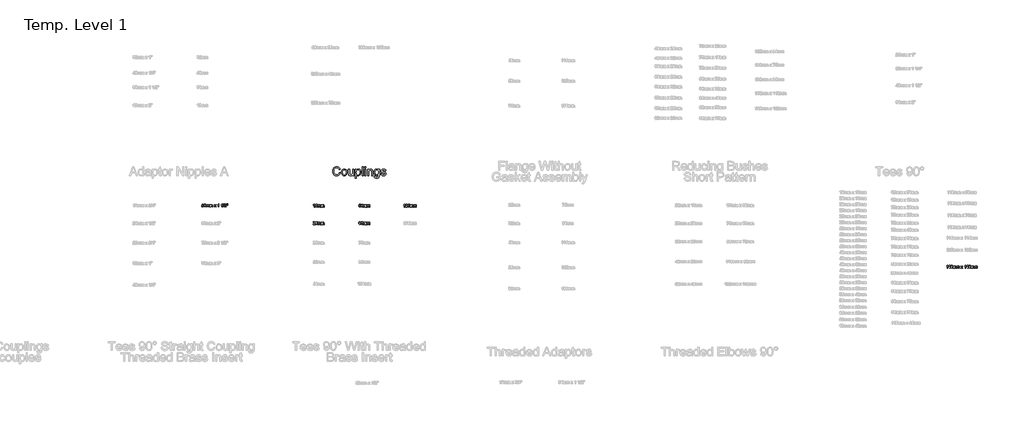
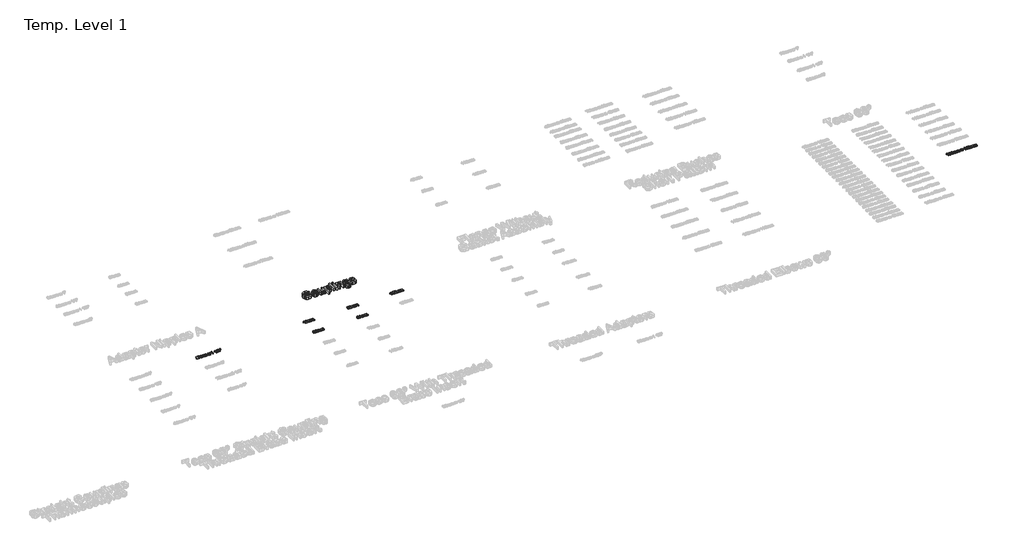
# One storey, part 30 of 62: 8 proxies.
"""IFC4 building model written with IfcOpenShell, lengths in millimetres."""

import ifcopenshell
import ifcopenshell.guid

model = None  # the IFC model being written
_history = None  # IfcOwnerHistory: only IFC2X3 demands one
_inside = {}  # id of a spatial element -> (the spatial element, [elements in it])
_under = {}  # id of a project, library or spatial element -> (it, [spatial elements below it])
_declared = {}  # id of a project -> (the project, [libraries it declares])
_typed = {}  # id of a type object -> (the type object, [elements of that type])
_made_of = {}  # id of a material, layer set ... -> (it, [elements and type objects made of it])


def new_model(schema):
    """Start an empty IFC model of exactly this schema.

    Asked for "IFC4X3", IfcOpenShell would pick the latest addendum, in which some entities
    have other attributes; the version numbers below select the first issue.
    IFC2X3 requires an IfcOwnerHistory on every rooted entity: one is made here for all.
    """
    global model, _history
    if schema == "IFC4X3":
        model = ifcopenshell.file(schema_version=(4, 3, 0, 0))
    else:
        model = ifcopenshell.file(schema=schema)
    _inside.clear()
    _under.clear()
    _declared.clear()
    _typed.clear()
    _made_of.clear()
    _history = None
    if model.schema == "IFC2X3":
        org = make("IfcOrganization", Name="unknown")
        user = make(
            "IfcPersonAndOrganization",
            ThePerson=make("IfcPerson", FamilyName="unknown"),
            TheOrganization=org,
        )
        app = make(
            "IfcApplication",
            ApplicationDeveloper=org,
            Version="unknown",
            ApplicationFullName="unknown",
            ApplicationIdentifier="unknown",
        )
        _history = make(
            "IfcOwnerHistory",
            OwningUser=user,
            OwningApplication=app,
            ChangeAction="ADDED",
            CreationDate=0,
        )
    return model


def make(cls, **values):
    """One entity of the class cls with the attributes given. An attribute that is None is left unset."""
    return model.create_entity(
        cls, **{name: value for name, value in values.items() if value is not None}
    )


def rooted(cls, **values):
    """An entity with a GlobalId (a new one), such as an element, a storey or a relation."""
    return make(cls, GlobalId=ifcopenshell.guid.new(), OwnerHistory=_history, **values)


def si_unit(unit_type, name, prefix=None):
    """IfcSIUnit, for example si_unit("LENGTHUNIT", "METRE", prefix="MILLI")."""
    return make("IfcSIUnit", UnitType=unit_type, Prefix=prefix, Name=name)


def assignment(units):
    """IfcUnitAssignment: the units of a project."""
    return None if units is None else make("IfcUnitAssignment", Units=units)


def point(xyz):
    """IfcCartesianPoint."""
    return None if xyz is None else make("IfcCartesianPoint", Coordinates=xyz)


def direction(xyz):
    """IfcDirection."""
    return None if xyz is None else make("IfcDirection", DirectionRatios=xyz)


def frame(location, z_axis=None, x_axis=None):
    """IfcAxis2Placement3D, a coordinate frame: its origin and axes. An axis left out is left unset."""
    return make(
        "IfcAxis2Placement3D",
        Location=point(location),
        Axis=direction(z_axis),
        RefDirection=direction(x_axis),
    )


def origin():
    """The frame at (0, 0, 0) with its axes left unset."""
    return frame((0.0, 0.0, 0.0))


def origin_with_axes():
    """The frame at (0, 0, 0) with the z axis (0, 0, 1) and the x axis (1, 0, 0) written out."""
    return frame((0.0, 0.0, 0.0), z_axis=(0.0, 0.0, 1.0), x_axis=(1.0, 0.0, 0.0))


def place(relative_to, where):
    """IfcLocalPlacement: puts the frame where relative to a parent placement (None: the world)."""
    return make(
        "IfcLocalPlacement", PlacementRelTo=relative_to, RelativePlacement=where
    )


def context(
    kind, dimensions, precision=None, world=None, true_north=None, identifier=None
):
    """IfcGeometricRepresentationContext, for example the 3D "Model" context."""
    return make(
        "IfcGeometricRepresentationContext",
        ContextIdentifier=identifier,
        ContextType=kind,
        CoordinateSpaceDimension=dimensions,
        Precision=precision,
        WorldCoordinateSystem=world,
        TrueNorth=true_north,
    )


def project(units=None, contexts=None):
    """IfcProject with its units and contexts."""
    return rooted(
        "IfcProject",
        Name="project",
        RepresentationContexts=contexts,
        UnitsInContext=assignment(units),
    )


def spatial(cls, under=None, at=None, **own):
    """A site, building, storey or space (cls), placed at a placement, below another one or the project."""
    s = rooted(cls, ObjectPlacement=at, **own)
    if under is not None:
        _under.setdefault(under.id(), (under, []))[1].append(s)
    return s


def polyline(points):
    """IfcPolyline through the points."""
    return make("IfcPolyline", Points=[point(p) for p in points])


def outline(outer, holes=None, kind="AREA"):
    """IfcArbitraryClosedProfileDef: a profile drawn as a closed curve; with holes, ...WithVoids."""
    if holes is None:
        return make("IfcArbitraryClosedProfileDef", ProfileType=kind, OuterCurve=outer)
    return make(
        "IfcArbitraryProfileDefWithVoids",
        ProfileType=kind,
        OuterCurve=outer,
        InnerCurves=holes,
    )


def extrude(swept, where, along, depth):
    """IfcExtrudedAreaSolid: the profile swept, set in the frame where, extruded along a direction by depth."""
    return make(
        "IfcExtrudedAreaSolid",
        SweptArea=swept,
        Position=where,
        ExtrudedDirection=direction(along),
        Depth=depth,
    )


def shape(context_of_items, identifier, shape_type, items):
    """IfcShapeRepresentation: the items that make up one representation, for example the "Body"."""
    return make(
        "IfcShapeRepresentation",
        ContextOfItems=context_of_items,
        RepresentationIdentifier=identifier,
        RepresentationType=shape_type,
        Items=items,
    )


def made_of(thing, what):
    """Note that an element or type object is made of a material, layer set ...; save() writes the relation."""
    if what is not None:
        _made_of.setdefault(what.id(), (what, []))[1].append(thing)
    return thing


def element(
    cls,
    number,
    at=None,
    inside=None,
    cuts=None,
    type_object=None,
    material=None,
    context=None,
    identifier="Body",
    shape_type=None,
    held_by="IfcProductDefinitionShape",
    body=None,
    shapes=None,
    **own,
):
    """One element of the class cls, such as IfcWall. Its Tag is "e" and its number.

    at: its placement. inside: the storey or other place that contains it. cuts: it is an
    opening in that element (IfcRelVoidsElement). A single representation is given by context,
    identifier, shape_type and body (its items); several are given by shapes. held_by: the class
    of the entity that holds the representations. save() writes the other relations.
    """
    e = rooted(cls, Tag="e%d" % number, ObjectPlacement=at, **own)
    if body is not None:
        shapes = [shape(context, identifier, shape_type, body)]
    if shapes is not None:
        e.Representation = make(held_by, Representations=shapes)
    if inside is not None:
        _inside.setdefault(inside.id(), (inside, []))[1].append(e)
    if cuts is not None:
        rooted(
            "IfcRelVoidsElement", RelatingBuildingElement=cuts, RelatedOpeningElement=e
        )
    if type_object is not None:
        _typed.setdefault(type_object.id(), (type_object, []))[1].append(e)
    return made_of(e, material)


def aggregate(whole, parts):
    """IfcRelAggregates: a whole, such as a stair, and the parts it consists of."""
    return rooted("IfcRelAggregates", RelatingObject=whole, RelatedObjects=parts)


def save(model, path):
    """Write the relations noted so far, then the file.

    IfcRelAggregates (storeys below a building ...), IfcRelContainedInSpatialStructure (elements
    in a storey), IfcRelDefinesByType, IfcRelAssociatesMaterial and IfcRelDeclares: one each for
    every whole, place, type object, material and project.
    """
    for whole, parts in _under.values():
        aggregate(whole, parts)
    for where, things in _inside.values():
        rooted(
            "IfcRelContainedInSpatialStructure",
            RelatedElements=things,
            RelatingStructure=where,
        )
    for kind, things in _typed.values():
        rooted("IfcRelDefinesByType", RelatedObjects=things, RelatingType=kind)
    for what, things in _made_of.values():
        rooted("IfcRelAssociatesMaterial", RelatedObjects=things, RelatingMaterial=what)
    for by, libraries in _declared.values():
        rooted("IfcRelDeclares", RelatingContext=by, RelatedDefinitions=libraries)
    model.write(path)


model = new_model("IFC4")

# Units and contexts
model_context = context("Model", 3, world=origin())
ifc_project = project(units=[si_unit("LENGTHUNIT", "METRE", prefix="MILLI")], contexts=[model_context])

# Site, building, storey
site = spatial("IfcSite", under=ifc_project)
building = spatial("IfcBuilding", under=site)
storey = spatial("IfcBuildingStorey", under=building, Name="Temp. Level 1", Elevation=0.0)

# Proxies
placement = place(None, origin())
element("IfcBuildingElementProxy", 1, Name="150mm Arial", ObjectType="150mm Arial", at=placement, inside=storey, context=model_context, shape_type="SweptSolid", body=[
    extrude(outline(polyline([(18084.579175, -7017.698517), (18103.0407135, -7022.4581324), (18094.5220837, -7043.9710531), (18081.1536942, -7059.6876997), (18063.5935981, -7069.3015819), (18042.4998481, -7072.5062093), (18021.0860861, -7070.0813295), (18004.0803769, -7062.8066901), (17991.0455212, -7050.9346949), (17981.5443192, -7034.7177478), (17975.743538, -7015.652243), (17973.8099442, -6995.2345747), (17975.9959418, -6973.699118), (17982.5539346, -6955.1023632), (17993.1413745, -6940.034755), (18007.4157135, -6929.0867382), (18024.3448, -6922.4205723), (18042.8964827, -6920.198517), (18063.1383697, -6923.074118), (18079.8736462, -6931.7009209), (18092.5794755, -6945.5470747), (18100.7330212, -6964.0807286), (18082.2714827, -6968.479767), (18075.8712423, -6955.0167262), (18067.1272519, -6945.7814497), (18055.9313385, -6940.440404), (18042.1753288, -6938.6600555), (18026.3189587, -6940.6342141), (18013.2931173, -6946.5566901), (18003.4088024, -6955.8054882), (17996.9770115, -6967.7586132), (17992.2714827, -6995.198517), (17997.8423962, -7027.0014016), (18004.9637904, -7038.877904), (18015.1861462, -7047.3199112), (18027.4412543, -7052.363481), (18040.6609058, -7054.0446709), (18056.071062, -7051.7550074), (18068.9121077, -7044.886017), (18078.6071197, -7033.5098151), (18084.579175, -7017.698517)])), origin_with_axes(), (0.0, 0.0, 1.0), 50.0),
    extrude(outline(polyline([(18121.5022519, -7015.9677478), (18125.4956413, -6989.8169064), (18137.4758096, -6971.4364978), (18152.2774923, -6962.4310891), (18169.9998481, -6959.4292862), (18189.3943793, -6963.0846348), (18204.8856654, -6974.0506805), (18215.040413, -6991.4620387), (18218.4253288, -7014.4533247), (18216.9289346, -7033.1041661), (18212.4397519, -7047.3018824), (18205.0884899, -7057.9343944), (18195.0058577, -7065.8896228), (18183.0301966, -7070.8520627), (18169.9998481, -7072.5062093), (18150.3709418, -7068.8643824), (18134.8976846, -7057.9389016), (18124.8511101, -7040.1624593), (18121.5022519, -7015.9677478)]), holes=[polyline([(18139.9637904, -7015.9316901), (18142.1002087, -7032.6399233), (18148.5094635, -7044.5434689), (18158.1548962, -7051.6693704), (18169.9998481, -7054.0446709), (18181.7907135, -7051.6558487), (18191.4181173, -7044.4893824), (18197.8273721, -7032.4280843), (18199.9637904, -7015.354767), (18197.8138505, -6999.1333127), (18191.3640308, -6987.3920266), (18181.7231053, -6980.2661252), (18169.9998481, -6977.8908247), (18158.1548962, -6980.2571108), (18148.5094635, -6987.3559689), (18142.1002087, -6999.2324713), (18139.9637904, -7015.9316901)])]), origin_with_axes(), (0.0, 0.0, 1.0), 50.0),
    extrude(outline(polyline([(18308.4253288, -7070.198517), (18308.4253288, -7051.5566901), (18293.9661942, -7067.2688295), (18275.1080212, -7072.5062093), (18257.7462423, -7068.8283247), (18245.7750885, -7059.5975555), (18240.2762904, -7046.0038055), (18239.1945596, -7028.8403439), (18239.1945596, -6961.7369786), (18257.6560981, -6961.7369786), (18257.6560981, -7020.1504401), (18258.7738865, -7038.9725555), (18266.0755692, -7050.0242382), (18279.8315788, -7054.0446709), (18295.2462423, -7049.9340939), (18305.4325404, -7038.7381805), (18308.4253288, -7018.167267), (18308.4253288, -6961.7369786), (18326.8868673, -6961.7369786), (18326.8868673, -7070.198517), (18308.4253288, -7070.198517)])), origin_with_axes(), (0.0, 0.0, 1.0), 50.0),
    extrude(outline(polyline([(18352.2714827, -7111.7369786), (18352.2714827, -6961.7369786), (18370.7330212, -6961.7369786), (18370.7330212, -6979.8379401), (18383.4974442, -6964.5314497), (18400.7330212, -6959.4292862), (18413.2179971, -6961.214142), (18424.1344635, -6966.5687093), (18433.0226846, -6975.1684689), (18439.422925, -6986.6889016), (18444.579175, -7015.1384209), (18443.1233457, -7030.9271829), (18438.7558577, -7045.0482766), (18431.6164346, -7056.7850555), (18421.8448, -7065.4208728), (18410.4640909, -7070.7348752), (18398.4974442, -7072.5062093), (18382.4337423, -7067.7646228), (18370.7330212, -7055.7754401), (18370.7330212, -7111.7369786), (18352.2714827, -7111.7369786)]), holes=[polyline([(18370.7330212, -7016.8331324), (18372.7297159, -7033.3836132), (18378.7198, -7044.9581324), (18387.5584418, -7051.7730362), (18398.1008096, -7054.0446709), (18408.8144514, -7051.6919064), (18417.8784538, -7044.6336132), (18424.0578409, -7032.6354161), (18426.1176365, -7015.4629401), (18424.1074202, -6999.0026036), (18418.0767712, -6987.2658247), (18409.251651, -6980.2345747), (18398.8580212, -6977.8908247), (18388.4238264, -6980.3833127), (18379.2606654, -6987.8607766), (18372.8649322, -7000.0888415), (18370.7330212, -7016.8331324)])]), origin_with_axes(), (0.0, 0.0, 1.0), 50.0),
    extrude(outline(polyline([(18465.3484058, -7070.198517), (18465.3484058, -6922.5062093), (18483.8099442, -6922.5062093), (18483.8099442, -7070.198517), (18465.3484058, -7070.198517)])), origin_with_axes(), (0.0, 0.0, 1.0), 50.0),
    extrude(outline(polyline([(18511.5022519, -6940.9677478), (18511.5022519, -6922.5062093), (18529.9637904, -6922.5062093), (18529.9637904, -6940.9677478), (18511.5022519, -6940.9677478)])), origin_with_axes(), (0.0, 0.0, 1.0), 50.0),
    extrude(outline(polyline([(18511.5022519, -7070.198517), (18511.5022519, -6961.7369786), (18529.9637904, -6961.7369786), (18529.9637904, -7070.198517), (18511.5022519, -7070.198517)])), origin_with_axes(), (0.0, 0.0, 1.0), 50.0),
    extrude(outline(polyline([(18557.6560981, -7070.198517), (18557.6560981, -6961.7369786), (18576.1176365, -6961.7369786), (18576.1176365, -6976.8812093), (18590.2342231, -6963.792267), (18609.5070596, -6959.4292862), (18626.9409538, -6962.9449112), (18638.8399923, -6972.1756805), (18644.3748481, -6985.7514016), (18645.3484058, -7003.5999593), (18645.3484058, -7070.198517), (18626.8868673, -7070.198517), (18626.8868673, -7006.0879401), (18624.7594635, -6989.7538055), (18617.2414346, -6981.1179882), (18604.5671558, -6977.8908247), (18593.7543553, -6979.7027237), (18584.5371077, -6985.1384209), (18578.2225043, -6995.6402237), (18576.1176365, -7012.6504401), (18576.1176365, -7070.198517), (18557.6560981, -7070.198517)])), origin_with_axes(), (0.0, 0.0, 1.0), 50.0),
    extrude(outline(polyline([(18666.1176365, -7079.4292862), (18684.579175, -7081.7369786), (18690.5647519, -7091.4725555), (18708.485425, -7095.5831324), (18727.3796558, -7090.9316901), (18736.3940788, -7077.8788055), (18737.6560981, -7056.3523632), (18724.6573, -7066.7369786), (18708.8099442, -7070.198517), (18689.7759899, -7066.1690699), (18675.5827808, -7054.0807286), (18666.7531534, -7036.3583728), (18663.8099442, -7015.4268824), (18669.0923962, -6986.8151036), (18675.5557375, -6975.2000194), (18684.3808577, -6966.5687093), (18695.2657736, -6961.214142), (18707.9085019, -6959.4292862), (18724.3778529, -6963.4677478), (18737.6560981, -6975.5831324), (18737.6560981, -6961.7369786), (18756.1176365, -6961.7369786), (18756.1176365, -7055.3788055), (18754.8556173, -7076.9998992), (18751.0695596, -7091.2381805), (18744.5476245, -7100.6807887), (18735.0779731, -7107.9148632), (18722.867937, -7112.5122189), (18708.1248481, -7114.0446709), (18690.9478649, -7111.8857165), (18677.4217231, -7105.4088536), (18668.7453409, -7094.5960531), (18666.1176365, -7079.4292862)]), holes=[polyline([(18682.2714827, -7014.1648632), (18684.2411341, -7031.0984569), (18690.1500885, -7042.7405843), (18699.0338024, -7049.48788), (18709.9277327, -7051.7369786), (18720.7405332, -7049.5014016), (18729.6693192, -7042.7946709), (18735.6594034, -7031.3012814), (18737.6560981, -7014.7057286), (18735.6008096, -6998.7006204), (18729.4349442, -6987.1756805), (18720.375449, -6980.2120387), (18709.6392712, -6977.8908247), (18699.0969034, -6980.175981), (18690.2582615, -6987.0314497), (18684.2681774, -6998.3851156), (18682.2714827, -7014.1648632)])]), origin_with_axes(), (0.0, 0.0, 1.0), 50.0),
    extrude(outline(polyline([(18776.8868673, -7037.8908247), (18795.3484058, -7035.5831324), (18798.2600644, -7043.479767), (18803.8940788, -7049.2850555), (18823.4734058, -7054.0446709), (18842.2955212, -7049.6816901), (18848.4253288, -7039.4413055), (18842.2594635, -7031.1480362), (18823.2570596, -7025.8836132), (18795.4565788, -7016.8511612), (18783.3231654, -7006.3042862), (18779.1945596, -6991.4124593), (18782.5118673, -6977.6564497), (18791.5623481, -6967.1456324), (18803.2991269, -6961.682892), (18819.1825404, -6959.4292862), (18841.6464827, -6963.0530843), (18855.9253288, -6972.8607766), (18862.2714827, -6989.4292862), (18843.8099442, -6991.7369786), (18836.8688385, -6981.5506805), (18820.6248481, -6977.8908247), (18802.9565788, -6981.3884209), (18797.6560981, -6989.5374593), (18799.8556173, -6994.9100555), (18806.7426365, -6998.9845747), (18822.6440788, -7002.9148632), (18849.7414346, -7011.604767), (18862.3255692, -7021.448517), (18866.8868673, -7037.4941901), (18861.5323, -7055.1624593), (18846.0815788, -7067.9809689), (18823.2210019, -7072.5062093), (18804.6062183, -7070.3247189), (18791.0214827, -7063.7802478), (18781.9529731, -7052.9449112), (18776.8868673, -7037.8908247)])), origin_with_axes(), (0.0, 0.0, 1.0), 50.0),
])
element("IfcBuildingElementProxy", 2, Name="50mm Arial", ObjectType="50mm Arial", at=placement, inside=storey, context=model_context, shape_type="SweptSolid", body=[
    extrude(outline(polyline([(15795.8008487, -7577.1215939), (15801.9546948, -7576.3523632), (15805.0556564, -7582.6925074), (15811.4859448, -7584.8139016), (15819.202291, -7581.8631805), (15821.9546948, -7574.0326516), (15819.3765698, -7566.7249593), (15811.5820987, -7564.0446709), (15806.1794545, -7565.1143824), (15802.7239256, -7567.8908247), (15796.5700795, -7567.1215939), (15801.9546948, -7541.7369786), (15825.8008487, -7541.7369786), (15825.8008487, -7547.8908247), (15806.9306564, -7547.8908247), (15804.2984448, -7561.448517), (15813.3008487, -7557.8908247), (15823.8236852, -7562.3018824), (15828.108541, -7573.6480362), (15824.2503679, -7585.0663055), (15818.7095025, -7589.4923872), (15811.4619064, -7590.9677478), (15800.6025314, -7587.1756805), (15795.8008487, -7577.1215939)])), origin_with_axes(), (0.0, 0.0, 1.0), 15.0),
    extrude(outline(polyline([(15833.4931564, -7565.979767), (15835.3020506, -7551.8151036), (15840.6746468, -7543.6480362), (15849.6470025, -7540.9677478), (15856.8345025, -7542.5542862), (15861.7984448, -7547.1276036), (15864.6830602, -7554.4112574), (15865.8008487, -7565.979767), (15864.0099833, -7580.0843343), (15858.655416, -7588.2694305), (15849.6470025, -7590.9677478), (15838.3970025, -7586.2802478), (15834.7191179, -7577.9539257), (15833.4931564, -7565.979767)]), holes=[polyline([(15839.6470025, -7565.9677478), (15842.5316179, -7581.2501997), (15849.6470025, -7584.8139016), (15856.7623871, -7581.2381805), (15859.6470025, -7565.9677478), (15856.858541, -7550.8595747), (15849.5748871, -7547.1215939), (15842.6277718, -7550.4148632), (15839.6470025, -7565.9677478)])]), origin_with_axes(), (0.0, 0.0, 1.0), 15.0),
    extrude(outline(polyline([(15872.7239256, -7590.198517), (15872.7239256, -7554.0446709), (15878.8777718, -7554.0446709), (15878.8777718, -7559.9941901), (15883.108541, -7555.120392), (15889.1301756, -7553.2754401), (15895.296041, -7555.1564497), (15898.6854641, -7560.4268824), (15903.4871468, -7555.0633007), (15909.5508487, -7553.2754401), (15917.5977237, -7556.2501997), (15920.4162333, -7565.4148632), (15920.4162333, -7590.198517), (15914.2623871, -7590.198517), (15914.2623871, -7568.0590939), (15913.6914737, -7562.9208728), (15911.624166, -7560.3908247), (15908.108541, -7559.4292862), (15902.0568583, -7561.8932286), (15899.6470025, -7569.7898632), (15899.6470025, -7590.198517), (15893.4931564, -7590.198517), (15893.4931564, -7567.3739978), (15892.0688775, -7561.4124593), (15887.3994064, -7559.4292862), (15882.8441179, -7560.7514016), (15879.8152718, -7564.6215939), (15878.8777718, -7571.9653439), (15878.8777718, -7590.198517), (15872.7239256, -7590.198517)])), origin_with_axes(), (0.0, 0.0, 1.0), 15.0),
    extrude(outline(polyline([(15929.6470025, -7590.198517), (15929.6470025, -7554.0446709), (15935.8008487, -7554.0446709), (15935.8008487, -7559.9941901), (15940.0316179, -7555.120392), (15946.0532525, -7553.2754401), (15952.2191179, -7555.1564497), (15955.608541, -7560.4268824), (15960.4102237, -7555.0633007), (15966.4739256, -7553.2754401), (15974.5208006, -7556.2501997), (15977.3393102, -7565.4148632), (15977.3393102, -7590.198517), (15971.1854641, -7590.198517), (15971.1854641, -7568.0590939), (15970.6145506, -7562.9208728), (15968.5472429, -7560.3908247), (15965.0316179, -7559.4292862), (15958.9799352, -7561.8932286), (15956.5700795, -7569.7898632), (15956.5700795, -7590.198517), (15950.4162333, -7590.198517), (15950.4162333, -7567.3739978), (15948.9919545, -7561.4124593), (15944.3224833, -7559.4292862), (15939.7671948, -7560.7514016), (15936.7383487, -7564.6215939), (15935.8008487, -7571.9653439), (15935.8008487, -7590.198517), (15929.6470025, -7590.198517)])), origin_with_axes(), (0.0, 0.0, 1.0), 15.0),
    extrude(outline(polyline([(16001.9546948, -7590.198517), (16015.1037333, -7572.0254401), (16002.7239256, -7554.0446709), (16010.1277718, -7554.0446709), (16016.1013295, -7562.698517), (16018.889791, -7566.7850555), (16021.3056564, -7563.4437093), (16028.108541, -7554.0446709), (16035.5123871, -7554.0446709), (16022.5075795, -7572.0254401), (16035.0316179, -7590.198517), (16027.6277718, -7590.198517), (16020.0917141, -7579.2730362), (16018.7095025, -7577.2778439), (16009.358541, -7590.198517), (16001.9546948, -7590.198517)])), origin_with_axes(), (0.0, 0.0, 1.0), 15.0),
    extrude(outline(polyline([(16081.1854641, -7590.198517), (16075.0316179, -7590.198517), (16075.0316179, -7551.8331324), (16069.202291, -7555.9857766), (16062.7239256, -7559.0927478), (16062.7239256, -7553.2754401), (16071.7443583, -7547.5182286), (16077.2191179, -7540.9677478), (16081.1854641, -7540.9677478), (16081.1854641, -7590.198517)])), origin_with_axes(), (0.0, 0.0, 1.0), 15.0),
    extrude(outline(polyline([(16138.108541, -7590.198517), (16131.9546948, -7590.198517), (16131.9546948, -7551.8331324), (16126.1253679, -7555.9857766), (16119.6470025, -7559.0927478), (16119.6470025, -7553.2754401), (16128.6674352, -7547.5182286), (16134.1421948, -7540.9677478), (16138.108541, -7540.9677478), (16138.108541, -7590.198517)])), origin_with_axes(), (0.0, 0.0, 1.0), 15.0),
    extrude(outline(polyline([(16149.6470025, -7590.198517), (16163.4931564, -7540.9677478), (16169.046041, -7540.9677478), (16155.1998871, -7590.198517), (16149.6470025, -7590.198517)])), origin_with_axes(), (0.0, 0.0, 1.0), 15.0),
    extrude(outline(polyline([(16203.4931564, -7584.0446709), (16203.4931564, -7590.198517), (16171.1854641, -7590.198517), (16171.8465218, -7585.9557286), (16175.5845025, -7579.4232766), (16183.2888295, -7572.2898632), (16193.9138295, -7562.0374593), (16196.5700795, -7555.0663055), (16194.0640698, -7549.4232766), (16187.5195987, -7547.1215939), (16180.6986852, -7549.3691901), (16178.108541, -7555.5831324), (16171.9546948, -7554.8139016), (16176.6722429, -7544.5134209), (16187.6518102, -7540.9677478), (16198.6674352, -7544.9100555), (16202.7239256, -7554.6937093), (16201.6301756, -7560.5290459), (16197.9943583, -7566.5626997), (16189.1782525, -7574.9941901), (16182.0989256, -7580.9136612), (16179.3224833, -7584.0446709), (16203.4931564, -7584.0446709)])), origin_with_axes(), (0.0, 0.0, 1.0), 15.0),
    extrude(outline(polyline([(16223.421041, -7558.6600555), (16221.9546948, -7549.1528439), (16221.9546948, -7540.9677478), (16228.108541, -7540.9677478), (16228.108541, -7549.1528439), (16226.6662333, -7558.6600555), (16223.421041, -7558.6600555)])), origin_with_axes(), (0.0, 0.0, 1.0), 15.0),
    extrude(outline(polyline([(16211.1494064, -7558.6600555), (16209.6470025, -7549.1528439), (16209.6470025, -7540.9677478), (16215.8008487, -7540.9677478), (16215.8008487, -7549.1528439), (16214.4546948, -7558.6600555), (16211.1494064, -7558.6600555)])), origin_with_axes(), (0.0, 0.0, 1.0), 15.0),
])
element("IfcBuildingElementProxy", 3, Name="50mm Arial", ObjectType="50mm Arial", at=placement, inside=storey, context=model_context, shape_type="SweptSolid", body=[
    extrude(outline(polyline([(17674.3130417, -7591.5627719), (17668.1591956, -7591.5627719), (17668.1591956, -7553.1973873), (17662.3298686, -7557.3500315), (17655.8515033, -7560.4570027), (17655.8515033, -7554.639695), (17664.8719359, -7548.8824835), (17670.3466956, -7542.3320027), (17674.3130417, -7542.3320027), (17674.3130417, -7591.5627719)])), origin_with_axes(), (0.0, 0.0, 1.0), 15.0),
    extrude(outline(polyline([(17720.4668879, -7555.4089258), (17714.3130417, -7556.1781565), (17711.9813109, -7551.045945), (17705.8154456, -7548.4858488), (17700.2625609, -7549.9762335), (17696.0618398, -7555.5711854), (17694.3130417, -7566.5387335), (17699.7397244, -7561.6288777), (17706.464484, -7560.0243104), (17716.9212148, -7564.4113296), (17721.2361186, -7575.7454642), (17719.2048686, -7584.2370508), (17713.6159263, -7590.2466661), (17705.5510225, -7592.3320027), (17693.0089552, -7586.8031565), (17689.3716355, -7579.483445), (17688.1591956, -7568.5820027), (17689.5053494, -7556.3253921), (17693.5438109, -7547.9449835), (17699.0576331, -7543.7352479), (17706.2000609, -7542.3320027), (17715.9236186, -7545.8055604), (17720.4668879, -7555.4089258)]), holes=[polyline([(17694.3130417, -7575.6493104), (17695.7373206, -7580.9798392), (17699.5233783, -7584.8500315), (17705.0702533, -7586.1781565), (17712.323859, -7583.4257527), (17715.0822725, -7575.9497911), (17712.3599167, -7568.7923392), (17704.8178494, -7566.1781565), (17697.3719359, -7568.7923392), (17694.3130417, -7575.6493104)])]), origin_with_axes(), (0.0, 0.0, 1.0), 15.0),
    extrude(outline(polyline([(17728.1591956, -7591.5627719), (17728.1591956, -7555.4089258), (17734.3130417, -7555.4089258), (17734.3130417, -7561.358445), (17738.5438109, -7556.4846469), (17744.5654456, -7554.639695), (17750.7313109, -7556.5207046), (17754.120734, -7561.7911373), (17758.9224167, -7556.4275556), (17764.9861186, -7554.639695), (17773.0329936, -7557.6144546), (17775.8515033, -7566.7791181), (17775.8515033, -7591.5627719), (17769.6976571, -7591.5627719), (17769.6976571, -7569.4233488), (17769.1267436, -7564.2851277), (17767.0594359, -7561.7550796), (17763.5438109, -7560.7935411), (17757.4921283, -7563.2574835), (17755.0822725, -7571.1541181), (17755.0822725, -7591.5627719), (17748.9284263, -7591.5627719), (17748.9284263, -7568.7382527), (17747.5041475, -7562.7767142), (17742.8346763, -7560.7935411), (17738.2793879, -7562.1156565), (17735.2505417, -7565.9858488), (17734.3130417, -7573.3295988), (17734.3130417, -7591.5627719), (17728.1591956, -7591.5627719)])), origin_with_axes(), (0.0, 0.0, 1.0), 15.0),
    extrude(outline(polyline([(17785.0822725, -7591.5627719), (17785.0822725, -7555.4089258), (17791.2361186, -7555.4089258), (17791.2361186, -7561.358445), (17795.4668879, -7556.4846469), (17801.4885225, -7554.639695), (17807.6543879, -7556.5207046), (17811.0438109, -7561.7911373), (17815.8454936, -7556.4275556), (17821.9091956, -7554.639695), (17829.9560706, -7557.6144546), (17832.7745802, -7566.7791181), (17832.7745802, -7591.5627719), (17826.620734, -7591.5627719), (17826.620734, -7569.4233488), (17826.0498206, -7564.2851277), (17823.9825129, -7561.7550796), (17820.4668879, -7560.7935411), (17814.4152052, -7563.2574835), (17812.0053494, -7571.1541181), (17812.0053494, -7591.5627719), (17805.8515033, -7591.5627719), (17805.8515033, -7568.7382527), (17804.4272244, -7562.7767142), (17799.7577533, -7560.7935411), (17795.2024648, -7562.1156565), (17792.1736186, -7565.9858488), (17791.2361186, -7573.3295988), (17791.2361186, -7591.5627719), (17785.0822725, -7591.5627719)])), origin_with_axes(), (0.0, 0.0, 1.0), 15.0),
])
element("IfcBuildingElementProxy", 4, Name="50mm Arial", ObjectType="50mm Arial", at=placement, inside=storey, context=model_context, shape_type="SweptSolid", body=[
    extrude(outline(polyline([(17682.7745802, -7876.5446709), (17682.7745802, -7882.698517), (17650.4668879, -7882.698517), (17651.1279456, -7878.4557286), (17654.8659263, -7871.9232766), (17662.5702533, -7864.7898632), (17673.1952533, -7854.5374593), (17675.8515033, -7847.5663055), (17673.3454936, -7841.9232766), (17666.8010225, -7839.6215939), (17659.980109, -7841.8691901), (17657.3899648, -7848.0831324), (17651.2361186, -7847.3139016), (17655.9536667, -7837.0134209), (17666.933234, -7833.4677478), (17677.948859, -7837.4100555), (17682.0053494, -7847.1937093), (17680.9115994, -7853.0290459), (17677.2757821, -7859.0626997), (17668.4596763, -7867.4941901), (17661.3803494, -7873.4136612), (17658.6039071, -7876.5446709), (17682.7745802, -7876.5446709)])), origin_with_axes(), (0.0, 0.0, 1.0), 15.0),
    extrude(outline(polyline([(17688.9284263, -7858.479767), (17690.7373206, -7844.3151036), (17696.1099167, -7836.1480362), (17705.0822725, -7833.4677478), (17712.2697725, -7835.0542862), (17717.2337148, -7839.6276036), (17720.1183302, -7846.9112574), (17721.2361186, -7858.479767), (17719.4452533, -7872.5843343), (17714.0906859, -7880.7694305), (17705.0822725, -7883.4677478), (17693.8322725, -7878.7802478), (17690.1543879, -7870.4539257), (17688.9284263, -7858.479767)]), holes=[polyline([(17695.0822725, -7858.4677478), (17697.9668879, -7873.7501997), (17705.0822725, -7877.3139016), (17712.1976571, -7873.7381805), (17715.0822725, -7858.4677478), (17712.2938109, -7843.3595747), (17705.0101571, -7839.6215939), (17698.0630417, -7842.9148632), (17695.0822725, -7858.4677478)])]), origin_with_axes(), (0.0, 0.0, 1.0), 15.0),
    extrude(outline(polyline([(17728.1591956, -7882.698517), (17728.1591956, -7846.5446709), (17734.3130417, -7846.5446709), (17734.3130417, -7852.4941901), (17738.5438109, -7847.620392), (17744.5654456, -7845.7754401), (17750.7313109, -7847.6564497), (17754.120734, -7852.9268824), (17758.9224167, -7847.5633007), (17764.9861186, -7845.7754401), (17773.0329936, -7848.7501997), (17775.8515033, -7857.9148632), (17775.8515033, -7882.698517), (17769.6976571, -7882.698517), (17769.6976571, -7860.5590939), (17769.1267436, -7855.4208728), (17767.0594359, -7852.8908247), (17763.5438109, -7851.9292862), (17757.4921283, -7854.3932286), (17755.0822725, -7862.2898632), (17755.0822725, -7882.698517), (17748.9284263, -7882.698517), (17748.9284263, -7859.8739978), (17747.5041475, -7853.9124593), (17742.8346763, -7851.9292862), (17738.2793879, -7853.2514016), (17735.2505417, -7857.1215939), (17734.3130417, -7864.4653439), (17734.3130417, -7882.698517), (17728.1591956, -7882.698517)])), origin_with_axes(), (0.0, 0.0, 1.0), 15.0),
    extrude(outline(polyline([(17785.0822725, -7882.698517), (17785.0822725, -7846.5446709), (17791.2361186, -7846.5446709), (17791.2361186, -7852.4941901), (17795.4668879, -7847.620392), (17801.4885225, -7845.7754401), (17807.6543879, -7847.6564497), (17811.0438109, -7852.9268824), (17815.8454936, -7847.5633007), (17821.9091956, -7845.7754401), (17829.9560706, -7848.7501997), (17832.7745802, -7857.9148632), (17832.7745802, -7882.698517), (17826.620734, -7882.698517), (17826.620734, -7860.5590939), (17826.0498206, -7855.4208728), (17823.9825129, -7852.8908247), (17820.4668879, -7851.9292862), (17814.4152052, -7854.3932286), (17812.0053494, -7862.2898632), (17812.0053494, -7882.698517), (17805.8515033, -7882.698517), (17805.8515033, -7859.8739978), (17804.4272244, -7853.9124593), (17799.7577533, -7851.9292862), (17795.2024648, -7853.2514016), (17792.1736186, -7857.1215939), (17791.2361186, -7864.4653439), (17791.2361186, -7882.698517), (17785.0822725, -7882.698517)])), origin_with_axes(), (0.0, 0.0, 1.0), 15.0),
])
element("IfcBuildingElementProxy", 5, Name="50mm Arial", ObjectType="50mm Arial", at=placement, inside=storey, context=model_context, shape_type="SweptSolid", body=[
    extrude(outline(polyline([(18411.2361186, -7578.4858488), (18417.3899648, -7577.7166181), (18420.4909263, -7584.0567623), (18426.9212148, -7586.1781565), (18434.6375609, -7583.2274354), (18437.3899648, -7575.3969065), (18434.8118398, -7568.0892142), (18427.0173686, -7565.4089258), (18421.6147244, -7566.4786373), (18418.1591956, -7569.2550796), (18412.0053494, -7568.4858488), (18417.3899648, -7543.1012335), (18441.2361186, -7543.1012335), (18441.2361186, -7549.2550796), (18422.3659263, -7549.2550796), (18419.7337148, -7562.8127719), (18428.7361186, -7559.2550796), (18439.2589552, -7563.6661373), (18443.5438109, -7575.0122911), (18439.6856379, -7586.4305604), (18434.1447725, -7590.8566421), (18426.8971763, -7592.3320027), (18416.0378013, -7588.5399354), (18411.2361186, -7578.4858488)])), origin_with_axes(), (0.0, 0.0, 1.0), 15.0),
    extrude(outline(polyline([(18448.9284263, -7567.3440219), (18450.7373206, -7553.1793585), (18456.1099167, -7545.0122911), (18465.0822725, -7542.3320027), (18472.2697725, -7543.9185411), (18477.2337148, -7548.4918585), (18480.1183302, -7555.7755123), (18481.2361186, -7567.3440219), (18479.4452533, -7581.4485892), (18474.0906859, -7589.6336854), (18465.0822725, -7592.3320027), (18453.8322725, -7587.6445027), (18450.1543879, -7579.3181806), (18448.9284263, -7567.3440219)]), holes=[polyline([(18455.0822725, -7567.3320027), (18457.9668879, -7582.6144546), (18465.0822725, -7586.1781565), (18472.1976571, -7582.6024354), (18475.0822725, -7567.3320027), (18472.2938109, -7552.2238296), (18465.0101571, -7548.4858488), (18458.0630417, -7551.7791181), (18455.0822725, -7567.3320027)])]), origin_with_axes(), (0.0, 0.0, 1.0), 15.0),
    extrude(outline(polyline([(18488.1591956, -7591.5627719), (18488.1591956, -7555.4089258), (18494.3130417, -7555.4089258), (18494.3130417, -7561.358445), (18498.5438109, -7556.4846469), (18504.5654456, -7554.639695), (18510.7313109, -7556.5207046), (18514.120734, -7561.7911373), (18518.9224167, -7556.4275556), (18524.9861186, -7554.639695), (18533.0329936, -7557.6144546), (18535.8515033, -7566.7791181), (18535.8515033, -7591.5627719), (18529.6976571, -7591.5627719), (18529.6976571, -7569.4233488), (18529.1267436, -7564.2851277), (18527.0594359, -7561.7550796), (18523.5438109, -7560.7935411), (18517.4921283, -7563.2574835), (18515.0822725, -7571.1541181), (18515.0822725, -7591.5627719), (18508.9284263, -7591.5627719), (18508.9284263, -7568.7382527), (18507.5041475, -7562.7767142), (18502.8346763, -7560.7935411), (18498.2793879, -7562.1156565), (18495.2505417, -7565.9858488), (18494.3130417, -7573.3295988), (18494.3130417, -7591.5627719), (18488.1591956, -7591.5627719)])), origin_with_axes(), (0.0, 0.0, 1.0), 15.0),
    extrude(outline(polyline([(18545.0822725, -7591.5627719), (18545.0822725, -7555.4089258), (18551.2361186, -7555.4089258), (18551.2361186, -7561.358445), (18555.4668879, -7556.4846469), (18561.4885225, -7554.639695), (18567.6543879, -7556.5207046), (18571.0438109, -7561.7911373), (18575.8454936, -7556.4275556), (18581.9091956, -7554.639695), (18589.9560706, -7557.6144546), (18592.7745802, -7566.7791181), (18592.7745802, -7591.5627719), (18586.620734, -7591.5627719), (18586.620734, -7569.4233488), (18586.0498206, -7564.2851277), (18583.9825129, -7561.7550796), (18580.4668879, -7560.7935411), (18574.4152052, -7563.2574835), (18572.0053494, -7571.1541181), (18572.0053494, -7591.5627719), (18565.8515033, -7591.5627719), (18565.8515033, -7568.7382527), (18564.4272244, -7562.7767142), (18559.7577533, -7560.7935411), (18555.2024648, -7562.1156565), (18552.1736186, -7565.9858488), (18551.2361186, -7573.3295988), (18551.2361186, -7591.5627719), (18545.0822725, -7591.5627719)])), origin_with_axes(), (0.0, 0.0, 1.0), 15.0),
])
element("IfcBuildingElementProxy", 6, Name="50mm Arial", ObjectType="50mm Arial", at=placement, inside=storey, context=model_context, shape_type="SweptSolid", body=[
    extrude(outline(polyline([(18442.7745802, -7846.5446709), (18436.620734, -7847.3139016), (18434.2890033, -7842.1816901), (18428.1231379, -7839.6215939), (18422.5702533, -7841.1119786), (18418.3695321, -7846.7069305), (18416.620734, -7857.6744786), (18422.0474167, -7852.7646228), (18428.7721763, -7851.1600555), (18439.2289071, -7855.5470747), (18443.5438109, -7866.8812093), (18441.5125609, -7875.3727959), (18435.9236186, -7881.3824112), (18427.8587148, -7883.4677478), (18415.3166475, -7877.9389016), (18411.6793278, -7870.6191901), (18410.4668879, -7859.7177478), (18411.8130417, -7847.4611372), (18415.8515033, -7839.0807286), (18421.3653254, -7834.870993), (18428.5077533, -7833.4677478), (18438.2313109, -7836.9413055), (18442.7745802, -7846.5446709)]), holes=[polyline([(18416.620734, -7866.7850555), (18418.0450129, -7872.1155843), (18421.8310706, -7875.9857766), (18427.3779456, -7877.3139016), (18434.6315513, -7874.5614978), (18437.3899648, -7867.0855362), (18434.667609, -7859.9280843), (18427.1255417, -7857.3139016), (18419.6796283, -7859.9280843), (18416.620734, -7866.7850555)])]), origin_with_axes(), (0.0, 0.0, 1.0), 15.0),
    extrude(outline(polyline([(18448.9284263, -7869.6215939), (18455.0822725, -7868.8523632), (18458.4777052, -7875.3307286), (18464.8298686, -7877.3139016), (18472.3058302, -7874.5855362), (18475.0822725, -7867.8307286), (18472.3298686, -7861.4665459), (18465.3346763, -7858.948517), (18461.0197725, -7859.6215939), (18461.7048686, -7853.4677478), (18469.6736186, -7851.7730362), (18472.7745802, -7846.3403439), (18470.526984, -7841.526642), (18464.7337148, -7839.6215939), (18458.8683302, -7841.5446709), (18455.8515033, -7847.3139016), (18449.6976571, -7846.5446709), (18454.7337148, -7836.8932286), (18464.5173686, -7833.4677478), (18471.9392436, -7835.1564497), (18477.1315513, -7839.7718343), (18478.9284263, -7845.979767), (18477.2216956, -7851.6528439), (18472.1736186, -7855.7273632), (18478.8803494, -7859.9340939), (18481.2361186, -7867.9389016), (18476.5245802, -7878.948517), (18464.6135225, -7883.4677478), (18453.8202533, -7879.6095747), (18448.9284263, -7869.6215939)])), origin_with_axes(), (0.0, 0.0, 1.0), 15.0),
    extrude(outline(polyline([(18488.1591956, -7882.698517), (18488.1591956, -7846.5446709), (18494.3130417, -7846.5446709), (18494.3130417, -7852.4941901), (18498.5438109, -7847.620392), (18504.5654456, -7845.7754401), (18510.7313109, -7847.6564497), (18514.120734, -7852.9268824), (18518.9224167, -7847.5633007), (18524.9861186, -7845.7754401), (18533.0329936, -7848.7501997), (18535.8515033, -7857.9148632), (18535.8515033, -7882.698517), (18529.6976571, -7882.698517), (18529.6976571, -7860.5590939), (18529.1267436, -7855.4208728), (18527.0594359, -7852.8908247), (18523.5438109, -7851.9292862), (18517.4921283, -7854.3932286), (18515.0822725, -7862.2898632), (18515.0822725, -7882.698517), (18508.9284263, -7882.698517), (18508.9284263, -7859.8739978), (18507.5041475, -7853.9124593), (18502.8346763, -7851.9292862), (18498.2793879, -7853.2514016), (18495.2505417, -7857.1215939), (18494.3130417, -7864.4653439), (18494.3130417, -7882.698517), (18488.1591956, -7882.698517)])), origin_with_axes(), (0.0, 0.0, 1.0), 15.0),
    extrude(outline(polyline([(18545.0822725, -7882.698517), (18545.0822725, -7846.5446709), (18551.2361186, -7846.5446709), (18551.2361186, -7852.4941901), (18555.4668879, -7847.620392), (18561.4885225, -7845.7754401), (18567.6543879, -7847.6564497), (18571.0438109, -7852.9268824), (18575.8454936, -7847.5633007), (18581.9091956, -7845.7754401), (18589.9560706, -7848.7501997), (18592.7745802, -7857.9148632), (18592.7745802, -7882.698517), (18586.620734, -7882.698517), (18586.620734, -7860.5590939), (18586.0498206, -7855.4208728), (18583.9825129, -7852.8908247), (18580.4668879, -7851.9292862), (18574.4152052, -7854.3932286), (18572.0053494, -7862.2898632), (18572.0053494, -7882.698517), (18565.8515033, -7882.698517), (18565.8515033, -7859.8739978), (18564.4272244, -7853.9124593), (18559.7577533, -7851.9292862), (18555.2024648, -7853.2514016), (18552.1736186, -7857.1215939), (18551.2361186, -7864.4653439), (18551.2361186, -7882.698517), (18545.0822725, -7882.698517)])), origin_with_axes(), (0.0, 0.0, 1.0), 15.0),
])
element("IfcBuildingElementProxy", 7, Name="50mm Arial", ObjectType="50mm Arial", at=placement, inside=storey, context=model_context, shape_type="SweptSolid", body=[
    extrude(outline(polyline([(19174.4668879, -7591.5627719), (19168.3130417, -7591.5627719), (19168.3130417, -7553.1973873), (19162.4837148, -7557.3500315), (19156.0053494, -7560.4570027), (19156.0053494, -7554.639695), (19165.0257821, -7548.8824835), (19170.5005417, -7542.3320027), (19174.4668879, -7542.3320027), (19174.4668879, -7591.5627719)])), origin_with_axes(), (0.0, 0.0, 1.0), 15.0),
    extrude(outline(polyline([(19220.620734, -7585.4089258), (19220.620734, -7591.5627719), (19188.3130417, -7591.5627719), (19188.9740994, -7587.3199835), (19192.7120802, -7580.7875315), (19200.4164071, -7573.6541181), (19211.0414071, -7563.4017142), (19213.6976571, -7556.4305604), (19211.1916475, -7550.7875315), (19204.6471763, -7548.4858488), (19197.8262629, -7550.733445), (19195.2361186, -7556.9473873), (19189.0822725, -7556.1781565), (19193.7998206, -7545.8776758), (19204.7793879, -7542.3320027), (19215.7950129, -7546.2743104), (19219.8515033, -7556.0579642), (19218.7577533, -7561.8933008), (19215.1219359, -7567.9269546), (19206.3058302, -7576.358445), (19199.2265033, -7582.2779161), (19196.4500609, -7585.4089258), (19220.620734, -7585.4089258)])), origin_with_axes(), (0.0, 0.0, 1.0), 15.0),
    extrude(outline(polyline([(19226.7745802, -7578.4858488), (19232.9284263, -7577.7166181), (19236.0293879, -7584.0567623), (19242.4596763, -7586.1781565), (19250.1760225, -7583.2274354), (19252.9284263, -7575.3969065), (19250.3503013, -7568.0892142), (19242.5558302, -7565.4089258), (19237.1531859, -7566.4786373), (19233.6976571, -7569.2550796), (19227.5438109, -7568.4858488), (19232.9284263, -7543.1012335), (19256.7745802, -7543.1012335), (19256.7745802, -7549.2550796), (19237.9043879, -7549.2550796), (19235.2721763, -7562.8127719), (19244.2745802, -7559.2550796), (19254.7974167, -7563.6661373), (19259.0822725, -7575.0122911), (19255.2240994, -7586.4305604), (19249.683234, -7590.8566421), (19242.4356379, -7592.3320027), (19231.5762629, -7588.5399354), (19226.7745802, -7578.4858488)])), origin_with_axes(), (0.0, 0.0, 1.0), 15.0),
    extrude(outline(polyline([(19266.0053494, -7591.5627719), (19266.0053494, -7555.4089258), (19272.1591956, -7555.4089258), (19272.1591956, -7561.358445), (19276.3899648, -7556.4846469), (19282.4115994, -7554.639695), (19288.5774648, -7556.5207046), (19291.9668879, -7561.7911373), (19296.7685706, -7556.4275556), (19302.8322725, -7554.639695), (19310.8791475, -7557.6144546), (19313.6976571, -7566.7791181), (19313.6976571, -7591.5627719), (19307.5438109, -7591.5627719), (19307.5438109, -7569.4233488), (19306.9728975, -7564.2851277), (19304.9055898, -7561.7550796), (19301.3899648, -7560.7935411), (19295.3382821, -7563.2574835), (19292.9284263, -7571.1541181), (19292.9284263, -7591.5627719), (19286.7745802, -7591.5627719), (19286.7745802, -7568.7382527), (19285.3503013, -7562.7767142), (19280.6808302, -7560.7935411), (19276.1255417, -7562.1156565), (19273.0966956, -7565.9858488), (19272.1591956, -7573.3295988), (19272.1591956, -7591.5627719), (19266.0053494, -7591.5627719)])), origin_with_axes(), (0.0, 0.0, 1.0), 15.0),
    extrude(outline(polyline([(19322.9284263, -7591.5627719), (19322.9284263, -7555.4089258), (19329.0822725, -7555.4089258), (19329.0822725, -7561.358445), (19333.3130417, -7556.4846469), (19339.3346763, -7554.639695), (19345.5005417, -7556.5207046), (19348.8899648, -7561.7911373), (19353.6916475, -7556.4275556), (19359.7553494, -7554.639695), (19367.8022244, -7557.6144546), (19370.620734, -7566.7791181), (19370.620734, -7591.5627719), (19364.4668879, -7591.5627719), (19364.4668879, -7569.4233488), (19363.8959744, -7564.2851277), (19361.8286667, -7561.7550796), (19358.3130417, -7560.7935411), (19352.261359, -7563.2574835), (19349.8515033, -7571.1541181), (19349.8515033, -7591.5627719), (19343.6976571, -7591.5627719), (19343.6976571, -7568.7382527), (19342.2733783, -7562.7767142), (19337.6039071, -7560.7935411), (19333.0486186, -7562.1156565), (19330.0197725, -7565.9858488), (19329.0822725, -7573.3295988), (19329.0822725, -7591.5627719), (19322.9284263, -7591.5627719)])), origin_with_axes(), (0.0, 0.0, 1.0), 15.0),
])
element("IfcBuildingElementProxy", 8, Name="50mm Arial", ObjectType="50mm Arial", at=placement, inside=storey, context=model_context, shape_type="SweptSolid", body=[
    extrude(outline(polyline([(28212.7399369, -8609.5564984), (28206.5860907, -8609.5564984), (28206.5860907, -8571.1911138), (28200.7567638, -8575.3437581), (28194.2783984, -8578.4507292), (28194.2783984, -8572.6334215), (28203.2988311, -8566.87621), (28208.7735907, -8560.3257292), (28212.7399369, -8560.3257292), (28212.7399369, -8609.5564984)])), origin_with_axes(), (0.0, 0.0, 1.0), 15.0),
    extrude(outline(polyline([(28258.893783, -8573.4026523), (28252.7399369, -8574.1718831), (28250.4082061, -8569.0396715), (28244.2423407, -8566.4795754), (28238.6894561, -8567.96996), (28234.488735, -8573.5649119), (28232.7399369, -8584.53246), (28238.1666196, -8579.6226042), (28244.8913792, -8578.0180369), (28255.34811, -8582.4050561), (28259.6630138, -8593.7391908), (28257.6317638, -8602.2307773), (28252.0428215, -8608.2403927), (28243.9779177, -8610.3257292), (28231.4358503, -8604.7968831), (28227.7985306, -8597.4771715), (28226.5860907, -8586.5757292), (28227.9322446, -8574.3191186), (28231.9707061, -8565.93871), (28237.4845282, -8561.7289744), (28244.6269561, -8560.3257292), (28254.3505138, -8563.7992869), (28258.893783, -8573.4026523)]), holes=[polyline([(28232.7399369, -8593.6430369), (28234.1642157, -8598.9735658), (28237.9502734, -8602.8437581), (28243.4971484, -8604.1718831), (28250.7507542, -8601.4194792), (28253.5091677, -8593.9435177), (28250.7868119, -8586.7860658), (28243.2447446, -8584.1718831), (28235.7988311, -8586.7860658), (28232.7399369, -8593.6430369)])]), origin_with_axes(), (0.0, 0.0, 1.0), 15.0),
    extrude(outline(polyline([(28265.0476292, -8585.3377484), (28266.8565234, -8571.173085), (28272.2291196, -8563.0060177), (28281.2014753, -8560.3257292), (28288.3889753, -8561.9122677), (28293.3529177, -8566.485585), (28296.237533, -8573.7692388), (28297.3553215, -8585.3377484), (28295.5644561, -8599.4423158), (28290.2098888, -8607.6274119), (28281.2014753, -8610.3257292), (28269.9514753, -8605.6382292), (28266.2735907, -8597.3119071), (28265.0476292, -8585.3377484)]), holes=[polyline([(28271.2014753, -8585.3257292), (28274.0860907, -8600.6081811), (28281.2014753, -8604.1718831), (28288.31686, -8600.5961619), (28291.2014753, -8585.3257292), (28288.4130138, -8570.2175561), (28281.12936, -8566.4795754), (28274.1822446, -8569.7728446), (28271.2014753, -8585.3257292)])]), origin_with_axes(), (0.0, 0.0, 1.0), 15.0),
    extrude(outline(polyline([(28304.2783984, -8609.5564984), (28304.2783984, -8573.4026523), (28310.4322446, -8573.4026523), (28310.4322446, -8579.3521715), (28314.6630138, -8574.4783734), (28320.6846484, -8572.6334215), (28326.8505138, -8574.5144311), (28330.2399369, -8579.7848638), (28335.0416196, -8574.4212821), (28341.1053215, -8572.6334215), (28349.1521965, -8575.6081811), (28351.9707061, -8584.7728446), (28351.9707061, -8609.5564984), (28345.81686, -8609.5564984), (28345.81686, -8587.4170754), (28345.2459465, -8582.2788542), (28343.1786388, -8579.7488061), (28339.6630138, -8578.7872677), (28333.6113311, -8581.25121), (28331.2014753, -8589.1478446), (28331.2014753, -8609.5564984), (28325.0476292, -8609.5564984), (28325.0476292, -8586.7319792), (28323.6233503, -8580.7704408), (28318.9538792, -8578.7872677), (28314.3985907, -8580.1093831), (28311.3697446, -8583.9795754), (28310.4322446, -8591.3233254), (28310.4322446, -8609.5564984), (28304.2783984, -8609.5564984)])), origin_with_axes(), (0.0, 0.0, 1.0), 15.0),
    extrude(outline(polyline([(28361.2014753, -8609.5564984), (28361.2014753, -8573.4026523), (28367.3553215, -8573.4026523), (28367.3553215, -8579.3521715), (28371.5860907, -8574.4783734), (28377.6077253, -8572.6334215), (28383.7735907, -8574.5144311), (28387.1630138, -8579.7848638), (28391.9646965, -8574.4212821), (28398.0283984, -8572.6334215), (28406.0752734, -8575.6081811), (28408.893783, -8584.7728446), (28408.893783, -8609.5564984), (28402.7399369, -8609.5564984), (28402.7399369, -8587.4170754), (28402.1690234, -8582.2788542), (28400.1017157, -8579.7488061), (28396.5860907, -8578.7872677), (28390.534408, -8581.25121), (28388.1245523, -8589.1478446), (28388.1245523, -8609.5564984), (28381.9707061, -8609.5564984), (28381.9707061, -8586.7319792), (28380.5464273, -8580.7704408), (28375.8769561, -8578.7872677), (28371.3216677, -8580.1093831), (28368.2928215, -8583.9795754), (28367.3553215, -8591.3233254), (28367.3553215, -8609.5564984), (28361.2014753, -8609.5564984)])), origin_with_axes(), (0.0, 0.0, 1.0), 15.0),
    extrude(outline(polyline([(28433.5091677, -8609.5564984), (28446.6582061, -8591.3834215), (28434.2783984, -8573.4026523), (28441.6822446, -8573.4026523), (28447.6558023, -8582.0564984), (28450.4442638, -8586.1430369), (28452.8601292, -8582.8016908), (28459.6630138, -8573.4026523), (28467.06686, -8573.4026523), (28454.0620523, -8591.3834215), (28466.5860907, -8609.5564984), (28459.1822446, -8609.5564984), (28451.6461869, -8598.6310177), (28450.2639753, -8596.6358254), (28440.9130138, -8609.5564984), (28433.5091677, -8609.5564984)])), origin_with_axes(), (0.0, 0.0, 1.0), 15.0),
    extrude(outline(polyline([(28512.7399369, -8609.5564984), (28506.5860907, -8609.5564984), (28506.5860907, -8571.1911138), (28500.7567638, -8575.3437581), (28494.2783984, -8578.4507292), (28494.2783984, -8572.6334215), (28503.2988311, -8566.87621), (28508.7735907, -8560.3257292), (28512.7399369, -8560.3257292), (28512.7399369, -8609.5564984)])), origin_with_axes(), (0.0, 0.0, 1.0), 15.0),
    extrude(outline(polyline([(28558.893783, -8573.4026523), (28552.7399369, -8574.1718831), (28550.4082061, -8569.0396715), (28544.2423407, -8566.4795754), (28538.6894561, -8567.96996), (28534.488735, -8573.5649119), (28532.7399369, -8584.53246), (28538.1666196, -8579.6226042), (28544.8913792, -8578.0180369), (28555.34811, -8582.4050561), (28559.6630138, -8593.7391908), (28557.6317638, -8602.2307773), (28552.0428215, -8608.2403927), (28543.9779177, -8610.3257292), (28531.4358503, -8604.7968831), (28527.7985306, -8597.4771715), (28526.5860907, -8586.5757292), (28527.9322446, -8574.3191186), (28531.9707061, -8565.93871), (28537.4845282, -8561.7289744), (28544.6269561, -8560.3257292), (28554.3505138, -8563.7992869), (28558.893783, -8573.4026523)]), holes=[polyline([(28532.7399369, -8593.6430369), (28534.1642157, -8598.9735658), (28537.9502734, -8602.8437581), (28543.4971484, -8604.1718831), (28550.7507542, -8601.4194792), (28553.5091677, -8593.9435177), (28550.7868119, -8586.7860658), (28543.2447446, -8584.1718831), (28535.7988311, -8586.7860658), (28532.7399369, -8593.6430369)])]), origin_with_axes(), (0.0, 0.0, 1.0), 15.0),
    extrude(outline(polyline([(28565.0476292, -8585.3377484), (28566.8565234, -8571.173085), (28572.2291196, -8563.0060177), (28581.2014753, -8560.3257292), (28588.3889753, -8561.9122677), (28593.3529177, -8566.485585), (28596.237533, -8573.7692388), (28597.3553215, -8585.3377484), (28595.5644561, -8599.4423158), (28590.2098888, -8607.6274119), (28581.2014753, -8610.3257292), (28569.9514753, -8605.6382292), (28566.2735907, -8597.3119071), (28565.0476292, -8585.3377484)]), holes=[polyline([(28571.2014753, -8585.3257292), (28574.0860907, -8600.6081811), (28581.2014753, -8604.1718831), (28588.31686, -8600.5961619), (28591.2014753, -8585.3257292), (28588.4130138, -8570.2175561), (28581.12936, -8566.4795754), (28574.1822446, -8569.7728446), (28571.2014753, -8585.3257292)])]), origin_with_axes(), (0.0, 0.0, 1.0), 15.0),
    extrude(outline(polyline([(28604.2783984, -8609.5564984), (28604.2783984, -8573.4026523), (28610.4322446, -8573.4026523), (28610.4322446, -8579.3521715), (28614.6630138, -8574.4783734), (28620.6846484, -8572.6334215), (28626.8505138, -8574.5144311), (28630.2399369, -8579.7848638), (28635.0416196, -8574.4212821), (28641.1053215, -8572.6334215), (28649.1521965, -8575.6081811), (28651.9707061, -8584.7728446), (28651.9707061, -8609.5564984), (28645.81686, -8609.5564984), (28645.81686, -8587.4170754), (28645.2459465, -8582.2788542), (28643.1786388, -8579.7488061), (28639.6630138, -8578.7872677), (28633.6113311, -8581.25121), (28631.2014753, -8589.1478446), (28631.2014753, -8609.5564984), (28625.0476292, -8609.5564984), (28625.0476292, -8586.7319792), (28623.6233503, -8580.7704408), (28618.9538792, -8578.7872677), (28614.3985907, -8580.1093831), (28611.3697446, -8583.9795754), (28610.4322446, -8591.3233254), (28610.4322446, -8609.5564984), (28604.2783984, -8609.5564984)])), origin_with_axes(), (0.0, 0.0, 1.0), 15.0),
    extrude(outline(polyline([(28661.2014753, -8609.5564984), (28661.2014753, -8573.4026523), (28667.3553215, -8573.4026523), (28667.3553215, -8579.3521715), (28671.5860907, -8574.4783734), (28677.6077253, -8572.6334215), (28683.7735907, -8574.5144311), (28687.1630138, -8579.7848638), (28691.9646965, -8574.4212821), (28698.0283984, -8572.6334215), (28706.0752734, -8575.6081811), (28708.893783, -8584.7728446), (28708.893783, -8609.5564984), (28702.7399369, -8609.5564984), (28702.7399369, -8587.4170754), (28702.1690234, -8582.2788542), (28700.1017157, -8579.7488061), (28696.5860907, -8578.7872677), (28690.534408, -8581.25121), (28688.1245523, -8589.1478446), (28688.1245523, -8609.5564984), (28681.9707061, -8609.5564984), (28681.9707061, -8586.7319792), (28680.5464273, -8580.7704408), (28675.8769561, -8578.7872677), (28671.3216677, -8580.1093831), (28668.2928215, -8583.9795754), (28667.3553215, -8591.3233254), (28667.3553215, -8609.5564984), (28661.2014753, -8609.5564984)])), origin_with_axes(), (0.0, 0.0, 1.0), 15.0),
])

save(model, "model.ifc")
